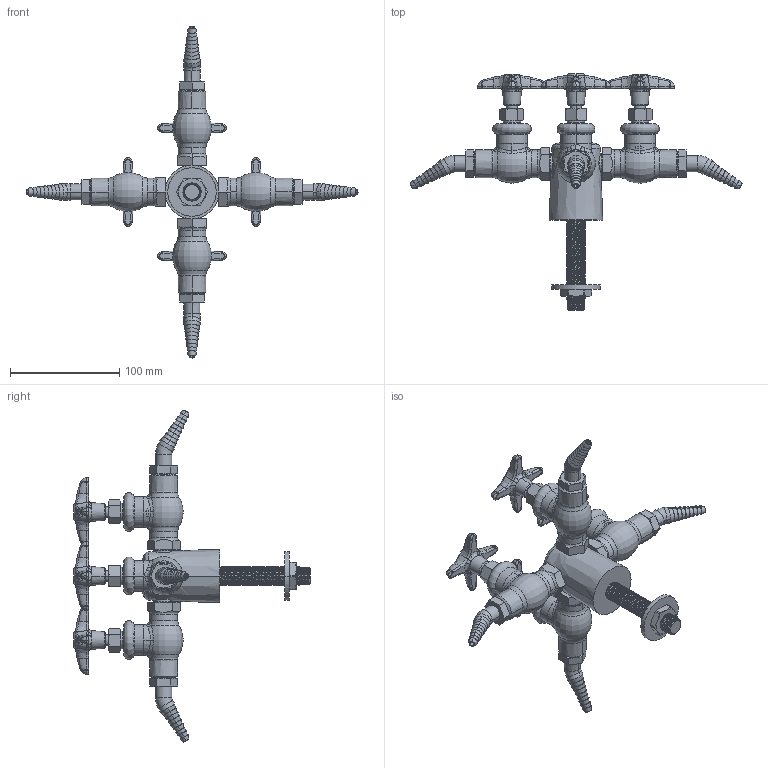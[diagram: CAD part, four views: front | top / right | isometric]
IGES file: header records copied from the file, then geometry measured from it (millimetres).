
Start section:  PTC IGES file: LGN1-A22G-40.igs
Global section: file name: LGN1-A22G-40.igs; native system: Creo Parametric by PTC Inc.; preprocessor: 2014500; author: usch_engrender; organization: Unknown; date: 20151216.120006; units: inch
Bounding box: 304.35 x 216.39 x 304.35 mm (x, y, z)
Volume: 468526.8 mm3; surface area: 109293.6 mm2
Topology: 1 solids, 17 shells, 1488 faces, 3439 edges, 2059 vertices
Faces by surface type: bspline 853, revolution 635
